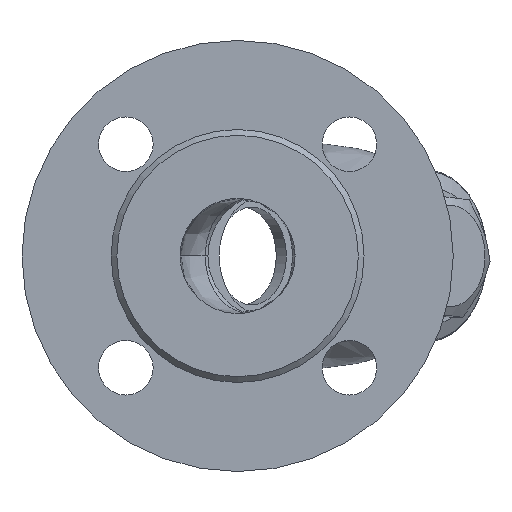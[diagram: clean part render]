
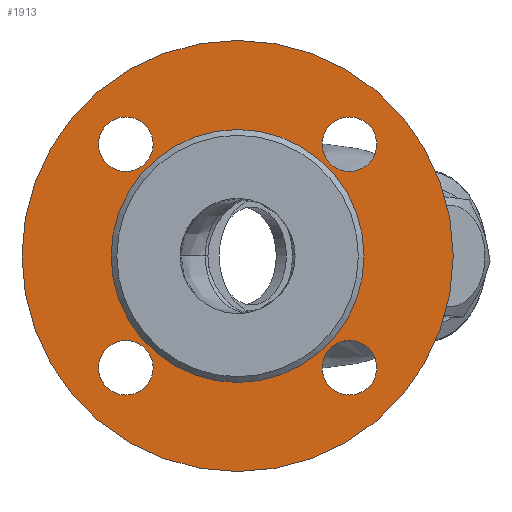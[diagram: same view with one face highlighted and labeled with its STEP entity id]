
A CAD part, left-side view. The second image highlights one B-rep face of the part: STEP entity #1913.
In plain terms, the highlighted planar face has unit normal (-1, 0, 0).
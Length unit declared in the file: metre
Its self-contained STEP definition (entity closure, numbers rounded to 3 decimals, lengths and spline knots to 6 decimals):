
#374=FACE_BOUND('',#653,.T.);
#375=FACE_BOUND('',#654,.T.);
#376=FACE_BOUND('',#655,.T.);
#377=FACE_BOUND('',#656,.T.);
#378=FACE_BOUND('',#657,.T.);
#402=PLANE('',#2149);
#508=FACE_OUTER_BOUND('',#652,.T.);
#652=EDGE_LOOP('',(#1652));
#653=EDGE_LOOP('',(#1653));
#654=EDGE_LOOP('',(#1654));
#655=EDGE_LOOP('',(#1655));
#656=EDGE_LOOP('',(#1656));
#657=EDGE_LOOP('',(#1657));
#772=CIRCLE('',#2136,0.0095);
#773=CIRCLE('',#2138,0.0095);
#774=CIRCLE('',#2140,0.0095);
#775=CIRCLE('',#2142,0.0095);
#780=CIRCLE('',#2150,0.075);
#781=CIRCLE('',#2151,0.044);
#929=VERTEX_POINT('',#16225);
#930=VERTEX_POINT('',#16229);
#931=VERTEX_POINT('',#16233);
#932=VERTEX_POINT('',#16237);
#938=VERTEX_POINT('',#16331);
#939=VERTEX_POINT('',#16333);
#1170=EDGE_CURVE('',#929,#929,#772,.T.);
#1172=EDGE_CURVE('',#930,#930,#773,.T.);
#1174=EDGE_CURVE('',#931,#931,#774,.T.);
#1176=EDGE_CURVE('',#932,#932,#775,.T.);
#1185=EDGE_CURVE('',#938,#938,#780,.T.);
#1186=EDGE_CURVE('',#939,#939,#781,.T.);
#1652=ORIENTED_EDGE('',*,*,#1185,.T.);
#1653=ORIENTED_EDGE('',*,*,#1170,.T.);
#1654=ORIENTED_EDGE('',*,*,#1172,.T.);
#1655=ORIENTED_EDGE('',*,*,#1174,.T.);
#1656=ORIENTED_EDGE('',*,*,#1176,.T.);
#1657=ORIENTED_EDGE('',*,*,#1186,.T.);
#1913=ADVANCED_FACE('',(#508,#374,#375,#376,#377,#378),#402,.T.);
#2136=AXIS2_PLACEMENT_3D('',#16227,#2492,#2493);
#2138=AXIS2_PLACEMENT_3D('',#16231,#2497,#2498);
#2140=AXIS2_PLACEMENT_3D('',#16235,#2502,#2503);
#2142=AXIS2_PLACEMENT_3D('',#16239,#2507,#2508);
#2149=AXIS2_PLACEMENT_3D('',#16330,#2521,#2522);
#2150=AXIS2_PLACEMENT_3D('',#16332,#2523,#2524);
#2151=AXIS2_PLACEMENT_3D('',#16334,#2525,#2526);
#2492=DIRECTION('center_axis',(1.,0.,0.));
#2493=DIRECTION('ref_axis',(0.,0.,-1.));
#2497=DIRECTION('center_axis',(1.,0.,0.));
#2498=DIRECTION('ref_axis',(0.,0.,-1.));
#2502=DIRECTION('center_axis',(1.,0.,0.));
#2503=DIRECTION('ref_axis',(0.,0.,-1.));
#2507=DIRECTION('center_axis',(1.,0.,0.));
#2508=DIRECTION('ref_axis',(0.,0.,-1.));
#2521=DIRECTION('center_axis',(-1.,0.,0.));
#2522=DIRECTION('ref_axis',(0.,0.,1.));
#2523=DIRECTION('center_axis',(-1.,0.,0.));
#2524=DIRECTION('ref_axis',(0.,0.,-1.));
#2525=DIRECTION('center_axis',(1.,0.,0.));
#2526=DIRECTION('ref_axis',(0.,0.,-1.));
#16225=CARTESIAN_POINT('',(-0.098,0.038891,-0.048391));
#16227=CARTESIAN_POINT('Origin',(-0.098,0.038891,-0.038891));
#16229=CARTESIAN_POINT('',(-0.098,-0.038891,-0.048391));
#16231=CARTESIAN_POINT('Origin',(-0.098,-0.038891,-0.038891));
#16233=CARTESIAN_POINT('',(-0.098,-0.038891,0.029391));
#16235=CARTESIAN_POINT('Origin',(-0.098,-0.038891,0.038891));
#16237=CARTESIAN_POINT('',(-0.098,0.038891,0.029391));
#16239=CARTESIAN_POINT('Origin',(-0.098,0.038891,0.038891));
#16330=CARTESIAN_POINT('Origin',(-0.098,0.044,0.));
#16331=CARTESIAN_POINT('',(-0.098,0.,0.075));
#16332=CARTESIAN_POINT('Origin',(-0.098,0.,0.));
#16333=CARTESIAN_POINT('',(-0.098,0.,-0.044));
#16334=CARTESIAN_POINT('Origin',(-0.098,0.,0.));
